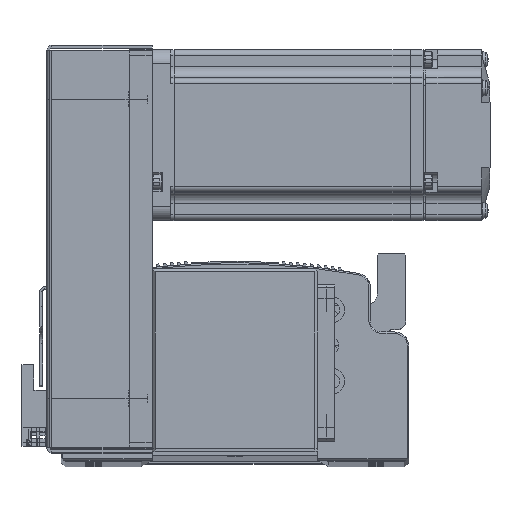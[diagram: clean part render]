
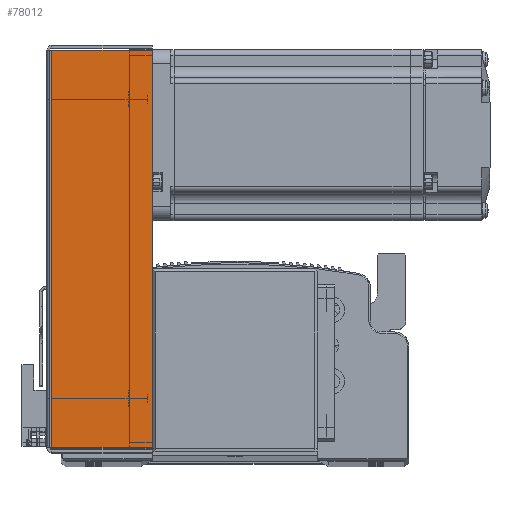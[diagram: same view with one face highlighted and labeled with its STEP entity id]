
A CAD part, top view. The second image highlights one B-rep face of the part: STEP entity #78012.
In plain terms, the highlighted planar face has unit normal (0, 0, 1) as drawn and (0, 0, -1) by its records, which use the part's own axes.
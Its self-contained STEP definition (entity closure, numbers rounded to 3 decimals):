
#4780 = LINE ( 'NONE', #86437, #4791 ) ;
#4791 = VECTOR ( 'NONE', #86418, 1000. ) ;
#18651 = CARTESIAN_POINT ( 'NONE',  ( 69.793, 0.737, -33.5 ) ) ;
#18685 = CARTESIAN_POINT ( 'NONE',  ( -69.793, 36., -33.5 ) ) ;
#18760 = CARTESIAN_POINT ( 'NONE',  ( -69.793, 0.737, -33.5 ) ) ;
#18776 = CARTESIAN_POINT ( 'NONE',  ( 69.793, 36., -33.5 ) ) ;
#45646 = EDGE_LOOP ( 'NONE', ( #86782, #86831, #86683, #86812 ) ) ;
#66300 = FACE_OUTER_BOUND ( 'NONE', #45646, .T. ) ;
#67662 = PLANE ( 'NONE',  #72586 ) ;
#67760 = CARTESIAN_POINT ( 'NONE',  ( 0., 0., -33.5 ) ) ;
#67794 = DIRECTION ( 'NONE',  ( 0., -1., 0. ) ) ;
#67804 = DIRECTION ( 'NONE',  ( 0., 0., 1. ) ) ;
#72586 = AXIS2_PLACEMENT_3D ( 'NONE', #67760, #67804, #67794 ) ;
#73078 = EDGE_CURVE ( 'NONE', #88270, #88295, #4780, .T. ) ;
#73151 = EDGE_CURVE ( 'NONE', #88334, #88270, #78301, .T. ) ;
#73152 = EDGE_CURVE ( 'NONE', #88334, #88228, #78292, .T. ) ;
#73154 = EDGE_CURVE ( 'NONE', #88228, #88295, #78284, .T. ) ;
#78012 = ADVANCED_FACE ( 'NONE', ( #66300 ), #67662, .F. ) ;
#78284 = LINE ( 'NONE', #87144, #78286 ) ;
#78286 = VECTOR ( 'NONE', #87146, 1000. ) ;
#78292 = LINE ( 'NONE', #87122, #78358 ) ;
#78301 = LINE ( 'NONE', #87063, #78310 ) ;
#78310 = VECTOR ( 'NONE', #87104, 1000. ) ;
#78358 = VECTOR ( 'NONE', #87074, 1000. ) ;
#86418 = DIRECTION ( 'NONE',  ( 0., 1., 0. ) ) ;
#86437 = CARTESIAN_POINT ( 'NONE',  ( 69.793, 0., -33.5 ) ) ;
#86683 = ORIENTED_EDGE ( 'NONE', *, *, #73154, .T. ) ;
#86782 = ORIENTED_EDGE ( 'NONE', *, *, #73151, .F. ) ;
#86812 = ORIENTED_EDGE ( 'NONE', *, *, #73078, .F. ) ;
#86831 = ORIENTED_EDGE ( 'NONE', *, *, #73152, .T. ) ;
#87063 = CARTESIAN_POINT ( 'NONE',  ( 71.5, 0.737, -33.5 ) ) ;
#87074 = DIRECTION ( 'NONE',  ( 0., 1., 0. ) ) ;
#87104 = DIRECTION ( 'NONE',  ( 1., 0., 0. ) ) ;
#87122 = CARTESIAN_POINT ( 'NONE',  ( -69.793, 0., -33.5 ) ) ;
#87144 = CARTESIAN_POINT ( 'NONE',  ( 0., 36., -33.5 ) ) ;
#87146 = DIRECTION ( 'NONE',  ( 1., 0., 0. ) ) ;
#88228 = VERTEX_POINT ( 'NONE', #18685 ) ;
#88270 = VERTEX_POINT ( 'NONE', #18651 ) ;
#88295 = VERTEX_POINT ( 'NONE', #18776 ) ;
#88334 = VERTEX_POINT ( 'NONE', #18760 ) ;
